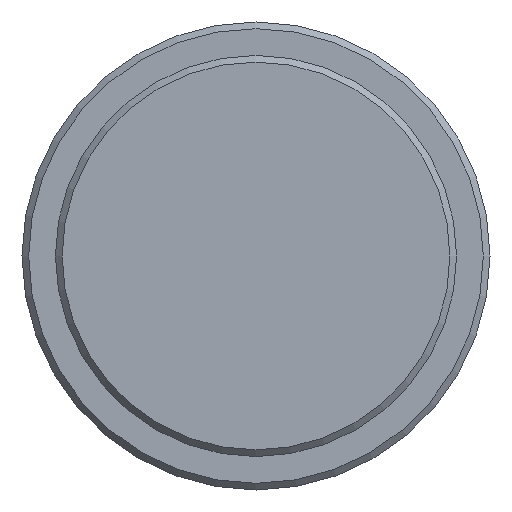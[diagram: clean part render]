
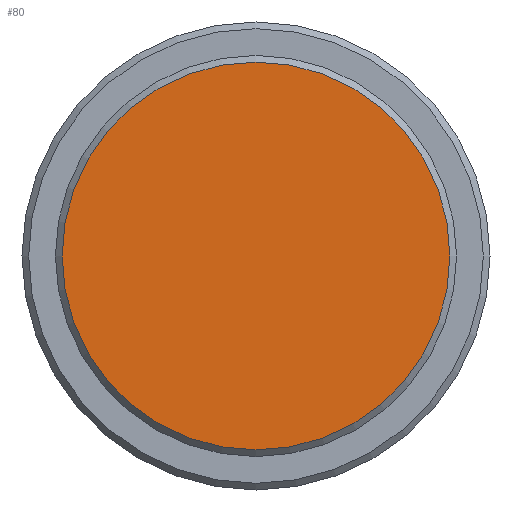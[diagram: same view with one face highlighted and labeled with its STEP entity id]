
A CAD part, front view. The second image highlights one B-rep face of the part: STEP entity #80.
In plain terms, the highlighted planar face has unit normal (0, -1, 0).
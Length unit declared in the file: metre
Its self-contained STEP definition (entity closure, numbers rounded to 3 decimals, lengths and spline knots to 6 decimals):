
#80 = ADVANCED_FACE( '', ( #111 ), #112, .T. );
#111 = FACE_OUTER_BOUND( '', #181, .T. );
#112 = PLANE( '', #182 );
#181 = EDGE_LOOP( '', ( #257 ) );
#182 = AXIS2_PLACEMENT_3D( '', #258, #259, #260 );
#257 = ORIENTED_EDGE( '', *, *, #365, .T. );
#258 = CARTESIAN_POINT( '', ( 0., -0.009, 0. ) );
#259 = DIRECTION( '', ( 0., -1., 0. ) );
#260 = DIRECTION( '', ( 0., 0., -1. ) );
#365 = EDGE_CURVE( '', #392, #392, #393, .T. );
#392 = VERTEX_POINT( '', #438 );
#393 = CIRCLE( '', #439, 0.0145 );
#438 = CARTESIAN_POINT( '', ( 0., -0.009, -0.0145 ) );
#439 = AXIS2_PLACEMENT_3D( '', #488, #489, #490 );
#488 = CARTESIAN_POINT( '', ( 0., -0.009, 0. ) );
#489 = DIRECTION( '', ( 0., -1., 0. ) );
#490 = DIRECTION( '', ( 0., 0., -1. ) );
